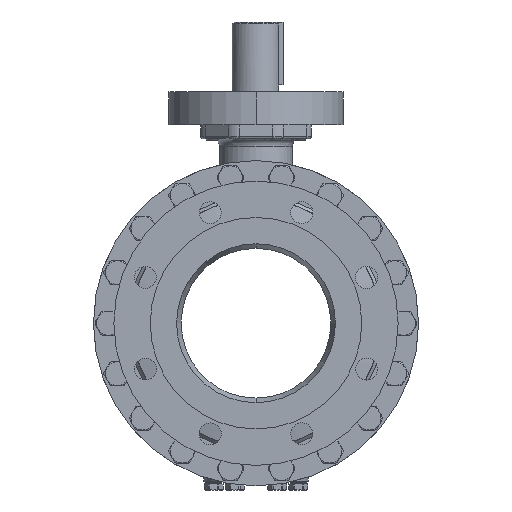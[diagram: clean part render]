
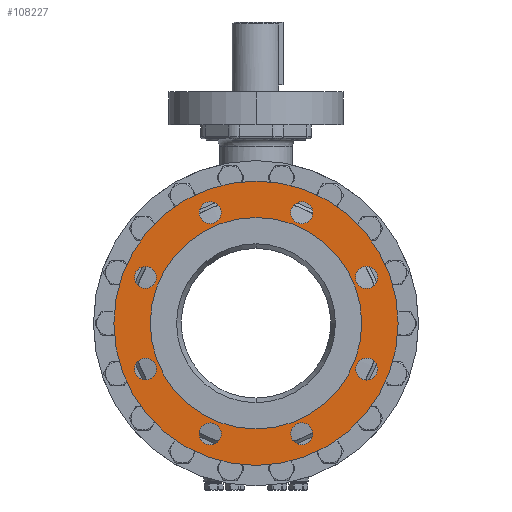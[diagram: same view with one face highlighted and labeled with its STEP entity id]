
A CAD part, left-side view. The second image highlights one B-rep face of the part: STEP entity #108227.
In plain terms, the highlighted planar face has unit normal (-1, 0, 0).
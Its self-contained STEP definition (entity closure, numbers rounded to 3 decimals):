
#26256=CARTESIAN_POINT('',(-194.,0.,0.));
#26257=DIRECTION('',(1.,0.,0.));
#26258=DIRECTION('',(0.,0.,1.));
#26259=AXIS2_PLACEMENT_3D('',#26256,#26257,#26258);
#26265=CARTESIAN_POINT('',(-194.,0.,0.));
#26266=DIRECTION('',(-1.,0.,0.));
#26267=DIRECTION('',(0.,0.,1.));
#26268=AXIS2_PLACEMENT_3D('',#26265,#26266,#26267);
#26274=CARTESIAN_POINT('',(-194.,0.,0.));
#26275=DIRECTION('',(-1.,0.,0.));
#26276=DIRECTION('',(0.,0.,1.));
#26277=AXIS2_PLACEMENT_3D('',#26274,#26275,#26276);
#26279=CARTESIAN_POINT('',(-194.,0.,0.));
#26280=DIRECTION('',(-1.,0.,0.));
#26281=DIRECTION('',(0.,0.,-1.));
#26282=AXIS2_PLACEMENT_3D('',#26279,#26280,#26281);
#26284=CARTESIAN_POINT('',(-194.,-45.922,110.866));
#26285=DIRECTION('',(-1.,0.,0.));
#26286=DIRECTION('',(0.,-1.,0.));
#26287=AXIS2_PLACEMENT_3D('',#26284,#26285,#26286);
#26289=CARTESIAN_POINT('',(-194.,-45.922,110.866));
#26290=DIRECTION('',(-1.,0.,0.));
#26291=DIRECTION('',(0.,1.,0.));
#26292=AXIS2_PLACEMENT_3D('',#26289,#26290,#26291);
#26294=CARTESIAN_POINT('',(-194.,45.922,110.866));
#26295=DIRECTION('',(-1.,0.,0.));
#26296=DIRECTION('',(0.,-0.707,0.707));
#26297=AXIS2_PLACEMENT_3D('',#26294,#26295,#26296);
#26299=CARTESIAN_POINT('',(-194.,45.922,110.866));
#26300=DIRECTION('',(-1.,0.,0.));
#26301=DIRECTION('',(0.,0.707,-0.707));
#26302=AXIS2_PLACEMENT_3D('',#26299,#26300,#26301);
#26304=CARTESIAN_POINT('',(-194.,110.866,45.922));
#26305=DIRECTION('',(-1.,0.,0.));
#26306=DIRECTION('',(0.,0.,1.));
#26307=AXIS2_PLACEMENT_3D('',#26304,#26305,#26306);
#26309=CARTESIAN_POINT('',(-194.,110.866,45.922));
#26310=DIRECTION('',(-1.,0.,0.));
#26311=DIRECTION('',(0.,0.,-1.));
#26312=AXIS2_PLACEMENT_3D('',#26309,#26310,#26311);
#26314=CARTESIAN_POINT('',(-194.,110.866,-45.922));
#26315=DIRECTION('',(-1.,0.,0.));
#26316=DIRECTION('',(0.,0.707,0.707));
#26317=AXIS2_PLACEMENT_3D('',#26314,#26315,#26316);
#26319=CARTESIAN_POINT('',(-194.,110.866,-45.922));
#26320=DIRECTION('',(-1.,0.,0.));
#26321=DIRECTION('',(0.,-0.707,-0.707));
#26322=AXIS2_PLACEMENT_3D('',#26319,#26320,#26321);
#26324=CARTESIAN_POINT('',(-194.,45.922,-110.866));
#26325=DIRECTION('',(-1.,0.,0.));
#26326=DIRECTION('',(0.,1.,0.));
#26327=AXIS2_PLACEMENT_3D('',#26324,#26325,#26326);
#26329=CARTESIAN_POINT('',(-194.,45.922,-110.866));
#26330=DIRECTION('',(-1.,0.,0.));
#26331=DIRECTION('',(0.,-1.,0.));
#26332=AXIS2_PLACEMENT_3D('',#26329,#26330,#26331);
#26334=CARTESIAN_POINT('',(-194.,-45.922,-110.866));
#26335=DIRECTION('',(-1.,0.,0.));
#26336=DIRECTION('',(0.,0.707,-0.707));
#26337=AXIS2_PLACEMENT_3D('',#26334,#26335,#26336);
#26339=CARTESIAN_POINT('',(-194.,-45.922,-110.866));
#26340=DIRECTION('',(-1.,0.,0.));
#26341=DIRECTION('',(0.,-0.707,0.707));
#26342=AXIS2_PLACEMENT_3D('',#26339,#26340,#26341);
#26344=CARTESIAN_POINT('',(-194.,-110.866,-45.922));
#26345=DIRECTION('',(-1.,0.,0.));
#26346=DIRECTION('',(0.,0.,-1.));
#26347=AXIS2_PLACEMENT_3D('',#26344,#26345,#26346);
#26349=CARTESIAN_POINT('',(-194.,-110.866,-45.922));
#26350=DIRECTION('',(-1.,0.,0.));
#26351=DIRECTION('',(0.,0.,1.));
#26352=AXIS2_PLACEMENT_3D('',#26349,#26350,#26351);
#26354=CARTESIAN_POINT('',(-194.,-110.866,45.922));
#26355=DIRECTION('',(-1.,0.,0.));
#26356=DIRECTION('',(0.,-0.707,-0.707));
#26357=AXIS2_PLACEMENT_3D('',#26354,#26355,#26356);
#26359=CARTESIAN_POINT('',(-194.,-110.866,45.922));
#26360=DIRECTION('',(-1.,0.,0.));
#26361=DIRECTION('',(0.,0.707,0.707));
#26362=AXIS2_PLACEMENT_3D('',#26359,#26360,#26361);
#58100=CARTESIAN_POINT('',(-194.,0.,106.));
#58101=CARTESIAN_POINT('',(-194.,0.,-106.));
#58102=VERTEX_POINT('',#58100);
#58103=VERTEX_POINT('',#58101);
#58104=CARTESIAN_POINT('',(-194.,0.,142.5));
#58105=CARTESIAN_POINT('',(-194.,0.,-142.5));
#58106=VERTEX_POINT('',#58104);
#58107=VERTEX_POINT('',#58105);
#58116=CARTESIAN_POINT('',(-194.,-56.922,110.866));
#58117=CARTESIAN_POINT('',(-194.,-34.922,110.866));
#58118=VERTEX_POINT('',#58116);
#58119=VERTEX_POINT('',#58117);
#58124=CARTESIAN_POINT('',(-194.,38.144,118.644));
#58125=CARTESIAN_POINT('',(-194.,53.7,103.087));
#58126=VERTEX_POINT('',#58124);
#58127=VERTEX_POINT('',#58125);
#58132=CARTESIAN_POINT('',(-194.,110.866,56.922));
#58133=CARTESIAN_POINT('',(-194.,110.866,34.922));
#58134=VERTEX_POINT('',#58132);
#58135=VERTEX_POINT('',#58133);
#58140=CARTESIAN_POINT('',(-194.,118.644,-38.144));
#58141=CARTESIAN_POINT('',(-194.,103.087,-53.7));
#58142=VERTEX_POINT('',#58140);
#58143=VERTEX_POINT('',#58141);
#58148=CARTESIAN_POINT('',(-194.,56.922,-110.866));
#58149=CARTESIAN_POINT('',(-194.,34.922,-110.866));
#58150=VERTEX_POINT('',#58148);
#58151=VERTEX_POINT('',#58149);
#58156=CARTESIAN_POINT('',(-194.,-38.144,-118.644));
#58157=CARTESIAN_POINT('',(-194.,-53.7,-103.087));
#58158=VERTEX_POINT('',#58156);
#58159=VERTEX_POINT('',#58157);
#58164=CARTESIAN_POINT('',(-194.,-110.866,-56.922));
#58165=CARTESIAN_POINT('',(-194.,-110.866,-34.922));
#58166=VERTEX_POINT('',#58164);
#58167=VERTEX_POINT('',#58165);
#58172=CARTESIAN_POINT('',(-194.,-118.644,38.144));
#58173=CARTESIAN_POINT('',(-194.,-103.087,53.7));
#58174=VERTEX_POINT('',#58172);
#58175=VERTEX_POINT('',#58173);
#108164=CARTESIAN_POINT('',(-194.,0.,0.));
#108165=DIRECTION('',(1.,0.,0.));
#108166=DIRECTION('',(0.,0.,1.));
#108167=AXIS2_PLACEMENT_3D('',#108164,#108165,#108166);
#108168=PLANE('',#108167);
#108170=ORIENTED_EDGE('',*,*,#108169,.F.);
#108172=ORIENTED_EDGE('',*,*,#108171,.F.);
#108173=EDGE_LOOP('',(#108170,#108172));
#108174=FACE_OUTER_BOUND('',#108173,.F.);
#108175=ORIENTED_EDGE('',*,*,#108158,.T.);
#108176=ORIENTED_EDGE('',*,*,#108144,.F.);
#108177=EDGE_LOOP('',(#108175,#108176));
#108178=FACE_BOUND('',#108177,.F.);
#108180=ORIENTED_EDGE('',*,*,#108179,.T.);
#108182=ORIENTED_EDGE('',*,*,#108181,.T.);
#108183=EDGE_LOOP('',(#108180,#108182));
#108184=FACE_BOUND('',#108183,.F.);
#108186=ORIENTED_EDGE('',*,*,#108185,.T.);
#108188=ORIENTED_EDGE('',*,*,#108187,.T.);
#108189=EDGE_LOOP('',(#108186,#108188));
#108190=FACE_BOUND('',#108189,.F.);
#108192=ORIENTED_EDGE('',*,*,#108191,.T.);
#108194=ORIENTED_EDGE('',*,*,#108193,.T.);
#108195=EDGE_LOOP('',(#108192,#108194));
#108196=FACE_BOUND('',#108195,.F.);
#108198=ORIENTED_EDGE('',*,*,#108197,.T.);
#108200=ORIENTED_EDGE('',*,*,#108199,.T.);
#108201=EDGE_LOOP('',(#108198,#108200));
#108202=FACE_BOUND('',#108201,.F.);
#108204=ORIENTED_EDGE('',*,*,#108203,.T.);
#108206=ORIENTED_EDGE('',*,*,#108205,.T.);
#108207=EDGE_LOOP('',(#108204,#108206));
#108208=FACE_BOUND('',#108207,.F.);
#108210=ORIENTED_EDGE('',*,*,#108209,.T.);
#108212=ORIENTED_EDGE('',*,*,#108211,.T.);
#108213=EDGE_LOOP('',(#108210,#108212));
#108214=FACE_BOUND('',#108213,.F.);
#108216=ORIENTED_EDGE('',*,*,#108215,.T.);
#108218=ORIENTED_EDGE('',*,*,#108217,.T.);
#108219=EDGE_LOOP('',(#108216,#108218));
#108220=FACE_BOUND('',#108219,.F.);
#108222=ORIENTED_EDGE('',*,*,#108221,.T.);
#108224=ORIENTED_EDGE('',*,*,#108223,.T.);
#108225=EDGE_LOOP('',(#108222,#108224));
#108226=FACE_BOUND('',#108225,.F.);
#108227=ADVANCED_FACE('',(#108174,#108178,#108184,#108190,#108196,#108202,
#108208,#108214,#108220,#108226),#108168,.F.);
#26260=CIRCLE('',#26259,106.);
#26269=CIRCLE('',#26268,106.);
#26278=CIRCLE('',#26277,142.5);
#26283=CIRCLE('',#26282,142.5);
#26288=CIRCLE('',#26287,11.);
#26293=CIRCLE('',#26292,11.);
#26298=CIRCLE('',#26297,11.);
#26303=CIRCLE('',#26302,11.);
#26308=CIRCLE('',#26307,11.);
#26313=CIRCLE('',#26312,11.);
#26318=CIRCLE('',#26317,11.);
#26323=CIRCLE('',#26322,11.);
#26328=CIRCLE('',#26327,11.);
#26333=CIRCLE('',#26332,11.);
#26338=CIRCLE('',#26337,11.);
#26343=CIRCLE('',#26342,11.);
#26348=CIRCLE('',#26347,11.);
#26353=CIRCLE('',#26352,11.);
#26358=CIRCLE('',#26357,11.);
#26363=CIRCLE('',#26362,11.);
#108144=EDGE_CURVE('',#58102,#58103,#26260,.T.);
#108158=EDGE_CURVE('',#58102,#58103,#26269,.T.);
#108169=EDGE_CURVE('',#58106,#58107,#26278,.T.);
#108171=EDGE_CURVE('',#58107,#58106,#26283,.T.);
#108179=EDGE_CURVE('',#58118,#58119,#26288,.T.);
#108181=EDGE_CURVE('',#58119,#58118,#26293,.T.);
#108185=EDGE_CURVE('',#58126,#58127,#26298,.T.);
#108187=EDGE_CURVE('',#58127,#58126,#26303,.T.);
#108191=EDGE_CURVE('',#58134,#58135,#26308,.T.);
#108193=EDGE_CURVE('',#58135,#58134,#26313,.T.);
#108197=EDGE_CURVE('',#58142,#58143,#26318,.T.);
#108199=EDGE_CURVE('',#58143,#58142,#26323,.T.);
#108203=EDGE_CURVE('',#58150,#58151,#26328,.T.);
#108205=EDGE_CURVE('',#58151,#58150,#26333,.T.);
#108209=EDGE_CURVE('',#58158,#58159,#26338,.T.);
#108211=EDGE_CURVE('',#58159,#58158,#26343,.T.);
#108215=EDGE_CURVE('',#58166,#58167,#26348,.T.);
#108217=EDGE_CURVE('',#58167,#58166,#26353,.T.);
#108221=EDGE_CURVE('',#58174,#58175,#26358,.T.);
#108223=EDGE_CURVE('',#58175,#58174,#26363,.T.);
